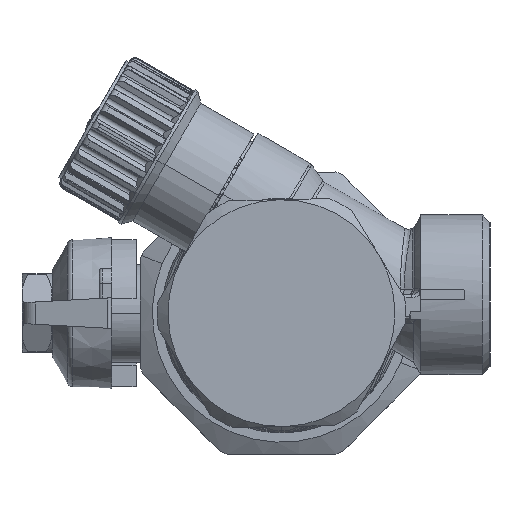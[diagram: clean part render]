
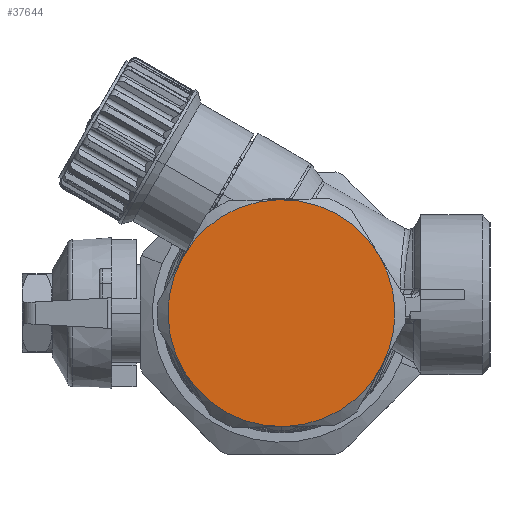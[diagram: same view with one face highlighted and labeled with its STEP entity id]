
A CAD part, left-side view. The second image highlights one B-rep face of the part: STEP entity #37644.
In plain terms, the highlighted planar face has unit normal (-1, 0, 0) as drawn and (0, 0, -1) by its records, which use the part's own axes.
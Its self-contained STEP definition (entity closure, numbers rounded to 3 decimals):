
#5915 = CIRCLE ( 'NONE', #85310, 18.5 ) ;
#7758 = CARTESIAN_POINT ( 'NONE',  ( 0., 0., 0. ) ) ;
#9365 = AXIS2_PLACEMENT_3D ( 'NONE', #7758, #124458, #123203 ) ;
#9414 = DIRECTION ( 'NONE',  ( 1., 0., 0. ) ) ;
#10116 = ORIENTED_EDGE ( 'NONE', *, *, #124064, .T. ) ;
#11318 = CARTESIAN_POINT ( 'NONE',  ( 9.25, 16.021, 0. ) ) ;
#14519 = AXIS2_PLACEMENT_3D ( 'NONE', #25319, #72529, #52749 ) ;
#15518 = DIRECTION ( 'NONE',  ( 1., 0., 0. ) ) ;
#15680 = DIRECTION ( 'NONE',  ( 1., 0., 0. ) ) ;
#16907 = CARTESIAN_POINT ( 'NONE',  ( 9.25, -16.021, 0. ) ) ;
#17254 = EDGE_CURVE ( 'NONE', #59544, #31892, #20615, .T. ) ;
#17297 = DIRECTION ( 'NONE',  ( 1., 0., 0. ) ) ;
#19234 = ORIENTED_EDGE ( 'NONE', *, *, #58652, .F. ) ;
#20615 = CIRCLE ( 'NONE', #14519, 18.5 ) ;
#24886 = CARTESIAN_POINT ( 'NONE',  ( 0., 0., 0. ) ) ;
#25319 = CARTESIAN_POINT ( 'NONE',  ( 0., 0., 0. ) ) ;
#26152 = DIRECTION ( 'NONE',  ( 1., 0., 0. ) ) ;
#31892 = VERTEX_POINT ( 'NONE', #100169 ) ;
#32718 = VERTEX_POINT ( 'NONE', #108333 ) ;
#33812 = VERTEX_POINT ( 'NONE', #65787 ) ;
#37644 = ADVANCED_FACE ( 'NONE', ( #83464 ), #98642, .F. ) ;
#43833 = VERTEX_POINT ( 'NONE', #75941 ) ;
#47278 = DIRECTION ( 'NONE',  ( 0., 0., 1. ) ) ;
#49284 = CIRCLE ( 'NONE', #114439, 18.5 ) ;
#52749 = DIRECTION ( 'NONE',  ( 1., 0., 0. ) ) ;
#52963 = EDGE_LOOP ( 'NONE', ( #19234, #72696, #78581, #81710, #10116, #73214 ) ) ;
#55161 = AXIS2_PLACEMENT_3D ( 'NONE', #24886, #101385, #26152 ) ;
#58652 = EDGE_CURVE ( 'NONE', #31892, #102488, #110070, .T. ) ;
#59544 = VERTEX_POINT ( 'NONE', #16907 ) ;
#60061 = EDGE_CURVE ( 'NONE', #33812, #43833, #121806, .T. ) ;
#62305 = EDGE_CURVE ( 'NONE', #102488, #32718, #5915, .T. ) ;
#65787 = CARTESIAN_POINT ( 'NONE',  ( -18.5, 0., 0. ) ) ;
#72529 = DIRECTION ( 'NONE',  ( 0., 0., 1. ) ) ;
#72696 = ORIENTED_EDGE ( 'NONE', *, *, #17254, .F. ) ;
#72697 = EDGE_CURVE ( 'NONE', #43833, #59544, #49284, .T. ) ;
#73214 = ORIENTED_EDGE ( 'NONE', *, *, #62305, .F. ) ;
#74237 = CARTESIAN_POINT ( 'NONE',  ( 0., 0., 0. ) ) ;
#75941 = CARTESIAN_POINT ( 'NONE',  ( -9.25, -16.021, 0. ) ) ;
#78581 = ORIENTED_EDGE ( 'NONE', *, *, #72697, .F. ) ;
#81710 = ORIENTED_EDGE ( 'NONE', *, *, #60061, .F. ) ;
#82664 = CARTESIAN_POINT ( 'NONE',  ( 0., 0., 0. ) ) ;
#83464 = FACE_OUTER_BOUND ( 'NONE', #52963, .T. ) ;
#85310 = AXIS2_PLACEMENT_3D ( 'NONE', #82664, #102410, #15680 ) ;
#87494 = AXIS2_PLACEMENT_3D ( 'NONE', #96760, #97382, #9414 ) ;
#95320 = AXIS2_PLACEMENT_3D ( 'NONE', #74237, #102893, #15518 ) ;
#96760 = CARTESIAN_POINT ( 'NONE',  ( 0., 0., 0. ) ) ;
#97382 = DIRECTION ( 'NONE',  ( 0., 0., 1. ) ) ;
#98642 = PLANE ( 'NONE',  #87494 ) ;
#100169 = CARTESIAN_POINT ( 'NONE',  ( 18.5, 0., 0. ) ) ;
#101385 = DIRECTION ( 'NONE',  ( 0., 0., 1. ) ) ;
#102410 = DIRECTION ( 'NONE',  ( 0., 0., 1. ) ) ;
#102488 = VERTEX_POINT ( 'NONE', #11318 ) ;
#102893 = DIRECTION ( 'NONE',  ( 0., 0., 1. ) ) ;
#108333 = CARTESIAN_POINT ( 'NONE',  ( -9.25, 16.021, 0. ) ) ;
#109027 = CIRCLE ( 'NONE', #9365, 18.5 ) ;
#110070 = CIRCLE ( 'NONE', #55161, 18.5 ) ;
#114439 = AXIS2_PLACEMENT_3D ( 'NONE', #115477, #47278, #17297 ) ;
#115477 = CARTESIAN_POINT ( 'NONE',  ( 0., 0., 0. ) ) ;
#121806 = CIRCLE ( 'NONE', #95320, 18.5 ) ;
#123203 = DIRECTION ( 'NONE',  ( -1., 0., 0. ) ) ;
#124064 = EDGE_CURVE ( 'NONE', #33812, #32718, #109027, .T. ) ;
#124458 = DIRECTION ( 'NONE',  ( 0., 0., -1. ) ) ;
